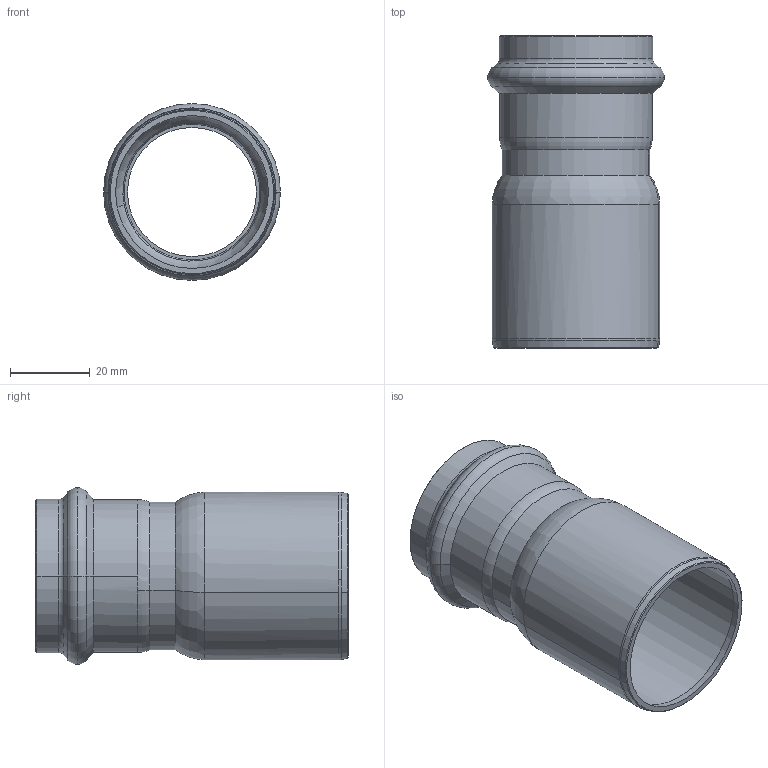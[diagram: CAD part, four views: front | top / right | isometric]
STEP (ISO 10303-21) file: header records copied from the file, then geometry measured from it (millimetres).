
FILE_DESCRIPTION(('CoCreate Modeling STEP Export'),'2;1');
FILE_NAME('8243VW4235.igs.stp','2013-03-05T 9:41:26',(''),(''),'CoCreate Modeling STEP processor for AP214 (Solid Model)','CoCreate Modeling 17.00A 17-Jun-2010 (C) Parametric Technology GmbH','');
FILE_SCHEMA(('AUTOMOTIVE_DESIGN { 1 0 10303 214 1 1 1 1 }'));
Length unit declared in the file: millimetre
Products named in the file (1): 8243VW4235
Bounding box: 44.3 x 78.18 x 44.3 mm (x, y, z)
Volume: 16479 mm3; surface area: 20130.3 mm2
Topology: 1 solids, 1 shells, 60 faces, 139 edges, 83 vertices
Faces by surface type: torus 22, cylinder 18, cone 16, plane 4
Entity records: 1362 total; most frequent: ORIENTED_EDGE 278, DIRECTION 206, CARTESIAN_POINT 203, EDGE_CURVE 139, AXIS2_PLACEMENT_3D 86, VERTEX_POINT 83, EDGE_LOOP 64, FACE_OUTER_BOUND 60
